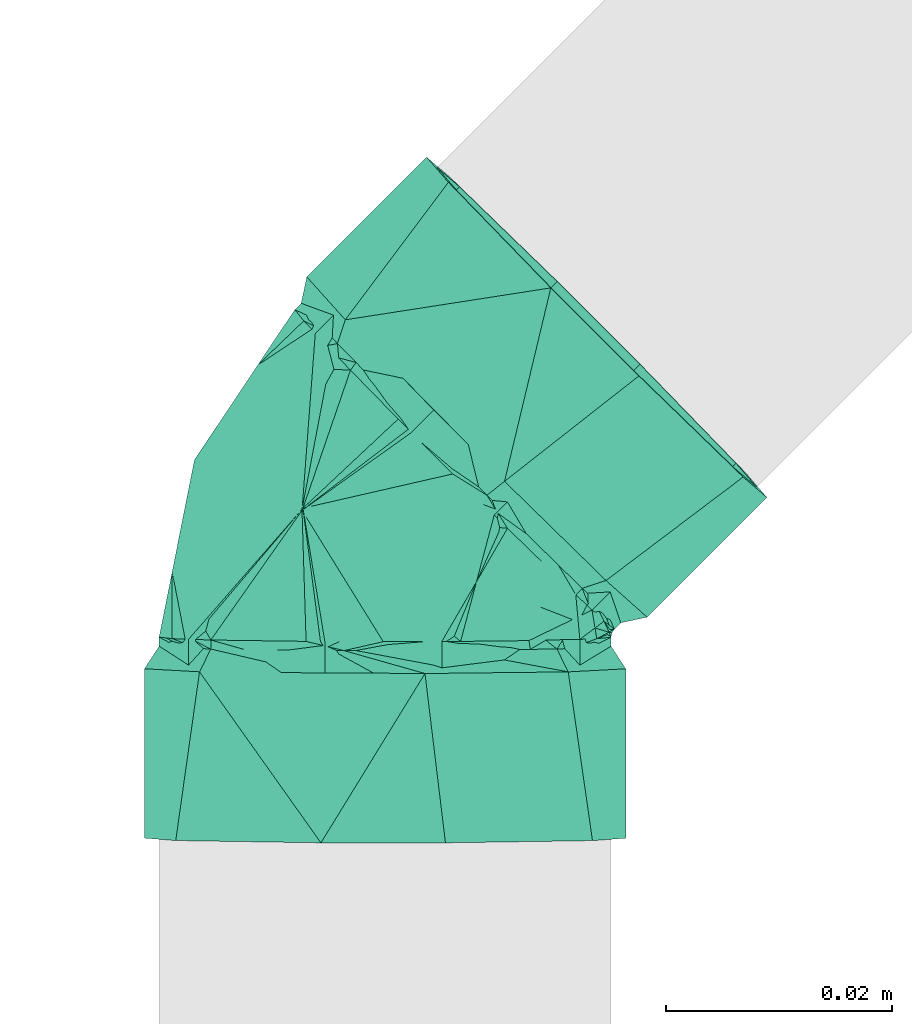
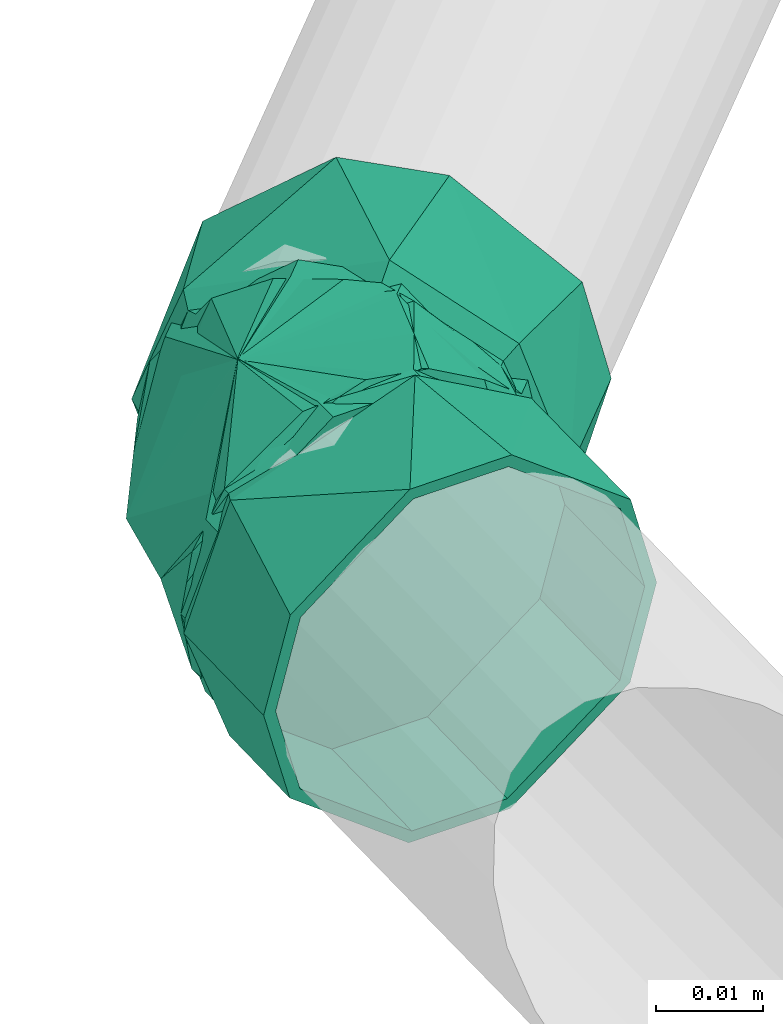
# One storey, part 383 of 589: 1 flow fitting.
"""IFC2X3 building model written with IfcOpenShell, lengths in millimetres."""

from ifc_helpers import new_model, entity, si_unit, converted_unit, derived_unit, direction, frame, origin, place, context, subcontext, project, spatial, faceted_brep, source, transform, mapped, material, type_object, type_shapes, element, save


model = new_model("IFC2X3")

# Units and contexts
model_context = context("Model", 3, precision=0.01, world=origin(), true_north=direction((6.123031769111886e-17, 1.0)))
body_context = subcontext(model_context, "Body", "Model", "MODEL_VIEW")
ifc_project = project(units=[si_unit("LENGTHUNIT", "METRE", prefix="MILLI"), si_unit("AREAUNIT", "SQUARE_METRE"), si_unit("VOLUMEUNIT", "CUBIC_METRE"), converted_unit("PLANEANGLEUNIT", "DEGREE", entity("IfcRatioMeasure", 0.017453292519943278), si_unit("PLANEANGLEUNIT", "RADIAN"), dimensions=[0, 0, 0, 0, 0, 0, 0]), si_unit("MASSUNIT", "GRAM", prefix="KILO"), derived_unit("MASSDENSITYUNIT", [(si_unit("MASSUNIT", "GRAM", prefix="KILO"), 1), (si_unit("LENGTHUNIT", "METRE"), -3)]), derived_unit("IONCONCENTRATIONUNIT", [(si_unit("MASSUNIT", "GRAM", prefix="KILO"), 1), (si_unit("LENGTHUNIT", "METRE"), -3)]), derived_unit("MOMENTOFINERTIAUNIT", [(si_unit("LENGTHUNIT", "METRE"), 4)]), si_unit("TIMEUNIT", "SECOND"), si_unit("FREQUENCYUNIT", "HERTZ"), si_unit("THERMODYNAMICTEMPERATUREUNIT", "DEGREE_CELSIUS"), derived_unit("THERMALTRANSMITTANCEUNIT", [(si_unit("MASSUNIT", "GRAM", prefix="KILO"), 1), (si_unit("THERMODYNAMICTEMPERATUREUNIT", "KELVIN"), -1), (si_unit("TIMEUNIT", "SECOND"), -3)]), derived_unit("THERMALCONDUCTANCEUNIT", [(si_unit("MASSUNIT", "GRAM", prefix="KILO"), 1), (si_unit("THERMODYNAMICTEMPERATUREUNIT", "KELVIN"), -1), (si_unit("TIMEUNIT", "SECOND"), -3), (si_unit("LENGTHUNIT", "METRE"), 1)]), derived_unit("VOLUMETRICFLOWRATEUNIT", [(si_unit("LENGTHUNIT", "METRE"), 3), (si_unit("TIMEUNIT", "SECOND"), -1)]), derived_unit("MASSFLOWRATEUNIT", [(si_unit("MASSUNIT", "GRAM", prefix="KILO"), 1), (si_unit("TIMEUNIT", "SECOND"), -1)]), derived_unit("ROTATIONALFREQUENCYUNIT", [(si_unit("TIMEUNIT", "SECOND"), -1)]), si_unit("ELECTRICCURRENTUNIT", "AMPERE"), si_unit("ELECTRICVOLTAGEUNIT", "VOLT"), si_unit("POWERUNIT", "WATT"), si_unit("FORCEUNIT", "NEWTON", prefix="KILO"), si_unit("ILLUMINANCEUNIT", "LUX"), si_unit("LUMINOUSFLUXUNIT", "LUMEN"), si_unit("LUMINOUSINTENSITYUNIT", "CANDELA"), derived_unit("USERDEFINED", [(si_unit("MASSUNIT", "GRAM", prefix="KILO"), -1), (si_unit("LENGTHUNIT", "METRE"), -2), (si_unit("TIMEUNIT", "SECOND"), 3), (si_unit("LUMINOUSFLUXUNIT", "LUMEN"), 1)]), derived_unit("USERDEFINED", [(si_unit("MASSUNIT", "GRAM", prefix="KILO"), 1), (si_unit("TIMEUNIT", "SECOND"), -3), (si_unit("LENGTHUNIT", "METRE"), 3), (si_unit("ELECTRICCURRENTUNIT", "AMPERE"), -2)]), derived_unit("SOUNDPOWERUNIT", [(si_unit("MASSUNIT", "GRAM", prefix="KILO"), 1), (si_unit("TIMEUNIT", "SECOND"), -3), (si_unit("LENGTHUNIT", "METRE"), 2)]), derived_unit("SOUNDPRESSUREUNIT", [(si_unit("MASSUNIT", "GRAM", prefix="KILO"), 1), (si_unit("LENGTHUNIT", "METRE"), -1), (si_unit("TIMEUNIT", "SECOND"), -2)]), derived_unit("LINEARVELOCITYUNIT", [(si_unit("LENGTHUNIT", "METRE"), 1), (si_unit("TIMEUNIT", "SECOND"), -1)]), si_unit("PRESSUREUNIT", "PASCAL"), derived_unit("USERDEFINED", [(si_unit("MASSUNIT", "GRAM", prefix="KILO"), 1), (si_unit("LENGTHUNIT", "METRE"), -2), (si_unit("TIMEUNIT", "SECOND"), -2)]), derived_unit("LINEARFORCEUNIT", [(si_unit("MASSUNIT", "GRAM", prefix="KILO"), 1), (si_unit("TIMEUNIT", "SECOND"), -2)]), derived_unit("PLANARFORCEUNIT", [(si_unit("MASSUNIT", "GRAM", prefix="KILO"), 1), (si_unit("LENGTHUNIT", "METRE"), -1), (si_unit("TIMEUNIT", "SECOND"), -2)]), derived_unit("SPECIFICHEATCAPACITYUNIT", [(si_unit("THERMODYNAMICTEMPERATUREUNIT", "KELVIN"), -1), (si_unit("LENGTHUNIT", "METRE"), 2), (si_unit("TIMEUNIT", "SECOND"), -2)]), derived_unit("HEATINGVALUEUNIT", [(si_unit("LENGTHUNIT", "METRE"), 2), (si_unit("TIMEUNIT", "SECOND"), -2)]), derived_unit("VAPORPERMEABILITYUNIT", [(si_unit("LENGTHUNIT", "METRE"), -1), (si_unit("TIMEUNIT", "SECOND"), 1)]), derived_unit("DYNAMICVISCOSITYUNIT", [(si_unit("MASSUNIT", "GRAM", prefix="KILO"), 1), (si_unit("TIMEUNIT", "SECOND"), -1), (si_unit("LENGTHUNIT", "METRE"), -1)]), derived_unit("THERMALEXPANSIONCOEFFICIENTUNIT", [(si_unit("THERMODYNAMICTEMPERATUREUNIT", "KELVIN"), -1)]), derived_unit("MODULUSOFELASTICITYUNIT", [(si_unit("MASSUNIT", "GRAM", prefix="KILO"), 1), (si_unit("LENGTHUNIT", "METRE"), -1), (si_unit("TIMEUNIT", "SECOND"), -2)]), derived_unit("ISOTHERMALMOISTURECAPACITYUNIT", [(si_unit("LENGTHUNIT", "METRE"), 3), (si_unit("MASSUNIT", "GRAM", prefix="KILO"), -1)]), derived_unit("MOISTUREDIFFUSIVITYUNIT", [(si_unit("TIMEUNIT", "SECOND"), -1), (si_unit("LENGTHUNIT", "METRE"), 2)])], contexts=[model_context])

# Site, building, storey
site_placement = place(None, origin())
site = spatial("IfcSite", under=ifc_project, at=site_placement, Name="Default", CompositionType="ELEMENT")
building_placement = place(site_placement, origin())
building = spatial("IfcBuilding", under=site, at=building_placement, CompositionType="ELEMENT")
storey_placement = place(building_placement, frame((0.0, 0.0, 100.0)))
storey = spatial("IfcBuildingStorey", under=building, at=storey_placement, Name="TÉRREO", CompositionType="ELEMENT", Elevation=100.0)

# Flow fitting
ifc_material = material(Name="PVC Série Normal")
pipe_fitting_type = type_object("IfcPipeFittingType", Name="PVC Esgoto_Joelho 45_90_Rodrigo MEP:a. Série Normal", PredefinedType="NOTDEFINED", material=ifc_material)
shared_shape = source(origin(), body_context, "Body", "Brep", [
    faceted_brep([(20.291797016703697, -7.993282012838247, 0.0), (18.397234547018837, -6.098470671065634, 10.0), (9.810603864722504, 2.489287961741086, 19.318516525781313), (2.4905765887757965, 9.810276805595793, 19.318516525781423), (-6.0960540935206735, 18.39803543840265, 10.0), (-7.990616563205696, 20.29284678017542, 0.0), (-6.0960540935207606, 18.398035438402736, -10.0), (2.49057658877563, 9.81027680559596, -19.31851652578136), (9.810603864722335, 2.4892879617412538, -19.318516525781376), (18.397234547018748, -6.098470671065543, -10.0), (-6.010587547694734, 22.272615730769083, 0.0), (-4.116025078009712, 20.377804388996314, 10.0), (4.470605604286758, 11.790045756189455, 19.318516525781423), (11.790632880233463, 4.46905691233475, 19.318516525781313), (20.3772635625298, -4.118701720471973, 10.0), (22.271826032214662, -6.013513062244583, 0.0), (20.37726356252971, -4.11870172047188, -10.0), (11.790632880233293, 4.469056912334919, -19.318516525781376), (4.4706056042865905, 11.790045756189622, -19.31851652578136), (-4.116025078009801, 20.3778043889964, -10.0)], [[[0, 1, 2, 3, 4, 5, 6, 7, 8, 9]], [[10, 11, 12, 13, 14, 15, 16, 17, 18, 19]], [[0, 15, 14, 1]], [[1, 14, 13, 2]], [[13, 12, 3, 2]], [[3, 12, 11, 4]], [[4, 11, 10, 5]], [[5, 10, 19, 6]], [[6, 19, 18, 7]], [[18, 17, 8, 7]], [[8, 17, 16, 9]], [[9, 16, 15, 0]]]),
    faceted_brep([(-11.497676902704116, -17.320508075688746, -10.0), (-11.497676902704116, -20.0, 0.0), (-11.497676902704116, -17.320508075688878, 10.0), (-11.497676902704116, -5.176380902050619, 19.318516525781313), (-11.497676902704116, 5.1763809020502, 19.318516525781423), (-11.497676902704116, 17.320508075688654, 10.0), (-11.497676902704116, 20.0, 0.0), (-11.497676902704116, 17.320508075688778, -10.0), (-11.497676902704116, 5.17638090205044, -19.31851652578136), (-11.497676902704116, -5.176380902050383, -19.318516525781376), (-8.697676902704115, 5.17638090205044, -19.31851652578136), (-8.697676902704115, 17.320508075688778, -10.0), (-8.697676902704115, 20.0, 0.0), (-8.697676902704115, 17.320508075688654, 10.0), (-8.697676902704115, 5.1763809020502, 19.318516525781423), (-8.697676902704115, -5.176380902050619, 19.318516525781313), (-8.697676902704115, -17.320508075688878, 10.0), (-8.697676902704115, -20.0, 0.0), (-8.697676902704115, -17.320508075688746, -10.0), (-8.697676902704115, -5.176380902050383, -19.318516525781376)], [[[0, 1, 2, 3, 4, 5, 6, 7, 8, 9]], [[10, 11, 12, 13, 14, 15, 16, 17, 18, 19]], [[1, 17, 16, 2]], [[2, 16, 15, 3]], [[15, 14, 4, 3]], [[4, 14, 13, 5]], [[5, 13, 12, 6]], [[6, 12, 11, 7]], [[7, 11, 10, 8]], [[10, 19, 9, 8]], [[9, 19, 18, 0]], [[0, 18, 17, 1]]]),
    faceted_brep([(-26.49767690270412, -5.512845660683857, -20.574220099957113), (-26.49767690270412, -5.176380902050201, -19.318516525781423), (-26.49767690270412, 5.176380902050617, -19.318516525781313), (-26.49767690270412, -18.44634110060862, -10.649999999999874), (-26.49767690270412, 5.512845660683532, -20.574220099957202), (-26.49767690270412, -17.320508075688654, -10.0), (-26.49767690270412, -20.0, 0.0), (-26.49767690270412, -21.3, 0.0), (-26.49767690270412, -17.32050807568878, 10.0), (-26.49767690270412, -18.446341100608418, 10.65000000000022), (-26.49767690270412, -5.176380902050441, 19.31851652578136), (-26.49767690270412, -5.512845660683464, 20.574220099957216), (-26.49767690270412, 5.176380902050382, 19.318516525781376), (-26.49767690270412, 5.512845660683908, 20.5742200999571), (-26.49767690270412, 17.320508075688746, 10.0), (-26.49767690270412, 18.446341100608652, 10.649999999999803), (-26.49767690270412, 21.3, 0.0), (-26.49767690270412, 20.0, 0.0), (-26.49767690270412, 18.44634110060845, -10.650000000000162), (-26.49767690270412, 17.320508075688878, -10.0), (-11.497676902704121, 17.320508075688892, -10.0), (-11.497676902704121, 20.0, 0.0), (-11.497676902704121, 5.17638090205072, -19.318516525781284), (-11.497676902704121, -5.176380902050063, -19.31851652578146), (-11.497676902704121, -17.320508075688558, -10.0), (-11.497676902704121, -20.0, 0.0), (-11.497676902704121, -17.320508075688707, 10.0), (-11.497676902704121, -5.176380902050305, 19.318516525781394), (-11.497676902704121, 5.176380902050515, 19.318516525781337), (-11.497676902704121, 17.320508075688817, 10.0), (-11.497676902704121, 21.3, 0.0), (-11.497676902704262, 16.315983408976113, 13.692285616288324), (-11.497676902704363, 3.696367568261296, 20.976817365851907), (-11.497676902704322, -16.31941754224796, 13.688192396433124), (-11.497676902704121, -21.3, 0.0), (-11.497676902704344, -6.311524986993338, 17.3325048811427), (-11.49767690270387, -16.319417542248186, -13.688192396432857), (-11.497676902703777, -3.7016293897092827, -20.975889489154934), (-11.497676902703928, 16.315983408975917, -13.692285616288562), (-11.497676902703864, 6.307177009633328, -17.334087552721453), (-9.497676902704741, -3.470767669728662, -19.69654212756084), (-9.49767690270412, 20.0, 0.0), (-9.497676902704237, 18.830849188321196, -3.2131907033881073), (-9.497676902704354, 17.66169837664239, -6.426381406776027), (-9.497676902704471, 16.4925475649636, -9.639572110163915), (-9.497676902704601, 15.323396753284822, -12.852762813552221), (-9.497676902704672, 5.9263145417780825, -16.27465247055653), (-9.497676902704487, -15.320172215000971, -12.856606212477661), (-9.49767690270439, -16.490129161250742, -9.642454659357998), (-9.497676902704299, -17.660086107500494, -6.428303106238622), (-9.49767690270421, -18.830043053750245, -3.214151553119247), (-9.497676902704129, -20.0, 0.0), (-9.497676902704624, 10.624855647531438, -14.563707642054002), (-9.497676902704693, 1.2277734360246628, -17.98559729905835), (-9.497676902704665, -6.433118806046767, -17.98655814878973), (-9.497676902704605, -9.395469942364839, -16.276574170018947), (-9.49767690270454, -12.357821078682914, -14.566590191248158), (-9.497676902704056, -18.830043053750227, 3.2141515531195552), (-9.497676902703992, -17.660086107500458, 6.428303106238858), (-9.497676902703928, -16.490129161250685, 9.64245465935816), (-9.497676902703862, -15.3201722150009, 12.856606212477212), (-9.497676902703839, -12.970687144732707, 13.711489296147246), (-9.497676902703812, -10.621202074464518, 14.566372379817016), (-9.497676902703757, -5.922231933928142, 16.27613854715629), (-9.497676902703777, 15.323396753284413, 12.852762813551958), (-9.497676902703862, 16.49254756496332, 9.63957211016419), (-9.49767690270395, 17.661698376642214, 6.426381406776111), (-9.497676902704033, 18.830849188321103, 3.213190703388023), (-9.497676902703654, 3.47570834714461, 19.695670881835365), (-9.49767690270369, 6.43763044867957, 17.984943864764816), (-9.497676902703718, 9.399552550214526, 16.274216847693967), (-9.497676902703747, 12.361474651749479, 14.563489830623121), (-9.497676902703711, -1.2232617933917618, 17.985904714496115), (-8.697676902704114, 17.057389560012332, 9.848048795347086), (-8.697676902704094, 6.840479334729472, 18.793824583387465), (-8.697676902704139, -9.848049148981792, 17.057385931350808), (-8.697676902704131, -3.420183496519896, 19.396932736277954), (-8.697676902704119, 0.0, 20.0), (-8.697676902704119, 19.396930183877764, 3.4201905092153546), (-8.697676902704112, 15.320918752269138, 12.855716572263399), (-8.697676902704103, 11.080699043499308, 15.82477057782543), (-8.697676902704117, 18.793860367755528, 6.840381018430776), (-8.697676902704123, -18.793848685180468, 6.840413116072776), (-8.697676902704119, 20.0, 0.0), (-8.697676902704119, -20.0, 0.0), (-8.697676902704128, -15.824789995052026, 11.080659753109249), (-8.697676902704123, -19.156924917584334, 4.781308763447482), (-8.697676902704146, -6.84036699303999, 18.793865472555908), (-8.69767690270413, -14.34026064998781, 13.200783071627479), (-8.697676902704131, -12.855731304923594, 15.320906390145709), (-8.697676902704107, 3.420239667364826, 19.396912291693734), (-8.697676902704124, -17.057361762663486, -9.848091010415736), (-8.697676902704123, -18.793848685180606, -6.840413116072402), (-8.697676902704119, 19.39693018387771, -3.4201905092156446), (-8.697676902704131, -3.420183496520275, -19.396932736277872), (-8.697676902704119, 0.0, -20.0), (-8.69767690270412, -19.396924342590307, -3.4202065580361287), (-8.697676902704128, -15.320874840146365, -12.85576890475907), (-8.697676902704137, -11.080620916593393, -15.824817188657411), (-8.697676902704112, 15.824828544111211, -11.080616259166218), (-8.697676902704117, 18.79386036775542, -6.84038101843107), (-8.697676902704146, -6.840366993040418, -18.79386547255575), (-8.697676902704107, 12.855796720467, -15.320851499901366), (-8.697676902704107, 3.420239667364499, -19.396912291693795), (-8.697676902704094, 6.840479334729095, -18.7938245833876), (-8.697676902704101, 9.848138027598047, -17.05733804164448), (18.39723454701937, -6.098470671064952, -10.0), (9.810603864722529, 2.489287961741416, -19.318516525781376), (2.490576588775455, 9.81027680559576, -19.31851652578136), (-6.0960540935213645, 18.39803543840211, -10.0), (-7.990616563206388, 20.292846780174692, 0.0), (-6.096054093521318, 18.39803543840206, 10.0), (2.4905765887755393, 9.810276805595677, 19.31851652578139), (9.810603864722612, 2.489287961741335, 19.318516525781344), (18.39723454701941, -6.098470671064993, 10.0), (20.29179701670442, -7.993282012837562, 0.0), (-2.9119619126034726, -18.849248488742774, 0.0), (15.386759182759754, -11.270374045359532, 0.0), (2.8666055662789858, -7.210896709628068, 17.605576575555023), (6.991099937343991, -16.87957604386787, 0.0), (-8.315023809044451, 20.076107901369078, 0.0), (2.8666055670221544, -7.2108967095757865, -17.605576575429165)], [[[0, 1, 2]], [[1, 0, 3]], [[2, 4, 0]], [[3, 5, 1]], [[3, 6, 5]], [[6, 3, 7]], [[8, 6, 7]], [[8, 7, 9]], [[9, 10, 8]], [[9, 11, 10]], [[10, 11, 12]], [[13, 12, 11]], [[13, 14, 12]], [[14, 13, 15]], [[16, 14, 15]], [[17, 14, 16]], [[18, 17, 16]], [[18, 19, 17]], [[19, 18, 4]], [[4, 2, 19]], [[20, 21, 17, 19]], [[22, 20, 19, 2]], [[2, 1, 23, 22]], [[24, 23, 1, 5]], [[25, 24, 5, 6]], [[26, 25, 6, 8]], [[27, 26, 8, 10]], [[10, 12, 28, 27]], [[29, 28, 12, 14]], [[21, 29, 14, 17]], [[16, 15, 30]], [[15, 31, 30]], [[31, 15, 13]], [[31, 13, 32]], [[33, 11, 9]], [[34, 9, 7]], [[11, 33, 35, 32]], [[33, 9, 34]], [[11, 32, 13]], [[7, 3, 34]], [[3, 36, 34]], [[36, 3, 0]], [[36, 0, 37]], [[38, 4, 18]], [[30, 18, 16]], [[4, 38, 39, 37]], [[38, 18, 30]], [[4, 37, 0]], [[28, 29, 21, 20, 22, 23, 24, 25, 26, 27]], [[39, 40, 37]], [[30, 41, 42, 43, 44, 45]], [[30, 45, 38]], [[38, 46, 39]], [[36, 47, 48, 49, 50, 51]], [[38, 45, 52, 46]], [[36, 37, 47]], [[34, 36, 51]], [[39, 46, 53, 40]], [[37, 40, 54, 55, 56, 47]], [[33, 51, 57, 58, 59, 60]], [[33, 34, 51]], [[60, 35, 33]], [[35, 60, 61, 62, 63]], [[63, 32, 35]], [[30, 64, 65, 66, 67, 41]], [[31, 68, 69, 70, 71, 64]], [[31, 64, 30]], [[32, 63, 72, 68]], [[68, 31, 32]], [[64, 73, 65]], [[74, 70, 69, 68]], [[62, 75, 63]], [[76, 77, 72]], [[78, 67, 66]], [[79, 71, 80]], [[65, 81, 66]], [[64, 79, 73]], [[82, 59, 58]], [[83, 41, 67]], [[84, 57, 51]], [[60, 59, 85]], [[83, 67, 78]], [[86, 82, 58]], [[81, 65, 73]], [[63, 87, 76]], [[63, 76, 72]], [[63, 75, 87]], [[82, 85, 59]], [[68, 72, 77]], [[66, 81, 78]], [[61, 88, 89]], [[89, 62, 61]], [[68, 77, 90, 74]], [[84, 86, 57]], [[86, 58, 57]], [[89, 75, 62]], [[61, 60, 88]], [[60, 85, 88]], [[74, 80, 70]], [[71, 79, 64]], [[71, 70, 80]], [[49, 91, 92]], [[93, 43, 42]], [[54, 40, 94]], [[40, 53, 95]], [[51, 96, 84]], [[97, 56, 98]], [[48, 97, 91]], [[91, 49, 48]], [[99, 44, 100]], [[101, 55, 54]], [[96, 51, 50]], [[83, 42, 41]], [[45, 99, 102]], [[49, 92, 50]], [[42, 83, 93]], [[48, 47, 97]], [[53, 103, 95]], [[104, 103, 46]], [[52, 105, 46]], [[44, 99, 45]], [[46, 103, 53]], [[50, 92, 96]], [[105, 52, 102]], [[44, 43, 100]], [[40, 95, 94]], [[100, 43, 93]], [[102, 52, 45]], [[105, 104, 46]], [[101, 98, 55]], [[54, 94, 101]], [[56, 97, 47]], [[56, 55, 98]], [[106, 107, 108, 109, 110, 111, 112, 113, 114, 115]], [[116, 89, 88, 85, 82]], [[117, 118, 119]], [[118, 89, 119]], [[118, 77, 76, 87]], [[116, 82, 86, 84]], [[118, 74, 90, 77]], [[111, 81, 73, 79]], [[112, 79, 80, 74]], [[118, 87, 75, 89]], [[89, 116, 119]], [[74, 118, 112]], [[118, 114, 113]], [[118, 117, 114]], [[120, 83, 78, 81]], [[81, 110, 120]], [[110, 81, 111]], [[117, 115, 114]], [[112, 111, 79]], [[112, 118, 113]], [[104, 108, 121]], [[116, 92, 91, 97]], [[109, 102, 99, 100]], [[106, 121, 107]], [[97, 121, 119]], [[108, 104, 105, 102]], [[116, 84, 96, 92]], [[97, 119, 116]], [[121, 97, 98, 101]], [[121, 95, 103, 104]], [[110, 100, 120]], [[109, 100, 110]], [[108, 102, 109]], [[121, 101, 94, 95]], [[108, 107, 121]], [[119, 121, 117]], [[106, 117, 121]], [[106, 115, 117]], [[120, 100, 93, 83]]]),
    faceted_brep([(-4.116025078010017, 20.37780438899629, -10.0), (-6.010587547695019, 22.272615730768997, 0.0), (-4.116025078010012, 20.37780438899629, 10.0), (4.470605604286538, 11.790045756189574, 19.318516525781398), (11.790632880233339, 4.469056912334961, 19.318516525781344), (20.37726356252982, -4.11870172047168, 10.0), (22.27182603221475, -6.013513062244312, 0.0), (20.377263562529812, -4.118701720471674, -10.0), (11.79063288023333, 4.469056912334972, -19.318516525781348), (4.470605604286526, 11.790045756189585, -19.318516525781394), (23.191004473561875, -6.932812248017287, 0.0), (20.85751959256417, -7.4276337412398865, 0.0), (20.03085942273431, -6.600864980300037, -3.213190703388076), (19.204199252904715, -5.774096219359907, -6.426381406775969), (18.377539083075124, -4.947327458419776, -9.639572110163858), (17.55087891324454, -4.120558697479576, -12.85276281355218), (3.6679902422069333, 12.592766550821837, -17.332504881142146), (10.744174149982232, 5.51565310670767, -20.976817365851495), (4.262270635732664, 9.169795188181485, -19.696542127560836), (19.667004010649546, -3.408348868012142, -13.69228561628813), (-4.115973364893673, 17.54913976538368, -12.856606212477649), (-3.408193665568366, 19.669879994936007, -13.688192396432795), (2.167709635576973, 11.264631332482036, -17.986558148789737), (0.07314863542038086, 13.359467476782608, -16.27657417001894), (-2.021412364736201, 15.45430362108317, -14.566590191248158), (10.906574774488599, 2.5246182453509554, -16.274652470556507), (-4.943203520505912, 18.37647858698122, -9.642454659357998), (-5.7704336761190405, 19.20381740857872, -6.428303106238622), (-6.597663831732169, 20.031156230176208, -3.2141515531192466), (-7.424893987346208, 20.858495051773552, 0.0), (-6.92976598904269, 23.191914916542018, 0.0), (14.22872684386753, -0.7979702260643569, -14.563707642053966), (7.58442270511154, 5.8472067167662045, -17.98559729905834), (-3.408193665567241, 19.669879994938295, 13.688192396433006), (-6.597663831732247, 20.031156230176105, 3.2141515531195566), (-5.770433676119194, 19.20381740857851, 6.428303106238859), (-4.943203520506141, 18.376478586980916, 9.64245465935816), (-4.115973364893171, 17.549139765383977, 12.856606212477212), (12.59017395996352, 3.6694108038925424, 17.334087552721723), (5.513343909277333, 10.747170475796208, 20.975889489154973), (9.173848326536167, 4.257572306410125, 19.695670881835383), (17.55087891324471, -4.120558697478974, 12.852762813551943), (19.66700401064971, -3.4083488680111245, 13.692285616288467), (11.268105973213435, 2.1630395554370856, 17.984943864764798), (13.362363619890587, 0.06850680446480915, 16.274216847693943), (15.456621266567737, -2.0260259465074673, 14.563489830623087), (2.5289374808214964, 10.903356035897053, 16.276138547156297), (18.377539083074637, -4.94732745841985, 9.639572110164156), (19.20419925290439, -5.774096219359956, 6.426381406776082), (20.030859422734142, -6.600864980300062, 3.213190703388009), (-2.4547456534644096, 15.887693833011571, 13.711489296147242), (-0.793517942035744, 14.22624790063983, 14.566372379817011), (5.851392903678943, 7.580464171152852, 17.985904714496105), (14.840003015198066, 22.63388298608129, -20.574220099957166), (15.077903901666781, 22.395950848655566, -19.318516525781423), (22.39793117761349, 15.074962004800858, -19.318516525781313), (5.69524133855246, 31.779845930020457, -10.649999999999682), (22.635832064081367, 14.837029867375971, -20.574220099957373), (6.491273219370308, 30.983709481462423, -10.0), (4.596710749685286, 32.8785208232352, 0.0), (3.677532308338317, 33.797820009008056, 0.0), (6.491273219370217, 30.983709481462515, 10.0), (5.6952413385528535, 31.77984593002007, 10.650000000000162), (15.077903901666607, 22.39595084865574, 19.31851652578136), (14.840003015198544, 22.633882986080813, 20.5742200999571), (22.397931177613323, 15.074962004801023, 19.318516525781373), (22.635832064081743, 14.837029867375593, 20.57422009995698), (30.984561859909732, 6.4872033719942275, 10.0), (31.78059374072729, 5.691066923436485, 10.649999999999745), (33.798302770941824, 3.6730928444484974, 0.0), (32.87912432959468, 4.592392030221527, 0.0), (31.780593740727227, 5.691066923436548, -10.650000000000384), (30.984561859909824, 6.487203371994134, -10.0), (18.211174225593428, -5.912385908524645, 9.848091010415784), (10.98714243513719, 1.3125948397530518, 18.793865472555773), (-0.812637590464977, 13.11392489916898, 17.05733804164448), (3.7322744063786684, 8.568415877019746, 19.396912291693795), (6.15059022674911, 6.149782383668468, 20.0), (19.865386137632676, -7.5668151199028, 3.420206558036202), (16.983373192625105, -4.684423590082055, 12.8557689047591), (13.98525781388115, -1.6859143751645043, 15.824817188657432), (19.438975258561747, -7.1403482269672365, 6.84041311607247), (-7.13780306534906, 19.43992125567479, 6.840381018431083), (20.2917970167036, -7.993282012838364, 0.0), (-7.9906165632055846, 20.29284678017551, 0.0), (-5.03851841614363, 17.34036084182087, 11.080616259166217), (-7.3945144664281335, 19.696666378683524, 4.781309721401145), (1.3139585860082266, 10.987049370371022, 18.79382458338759), (-3.98887609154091, 16.29058063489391, 13.20073387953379), (-2.939233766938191, 15.240800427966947, 15.320851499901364), (8.568866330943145, 3.7311886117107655, 19.39693273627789), (-5.91001342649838, 18.21197033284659, -9.848048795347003), (-7.137803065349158, 19.439921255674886, -6.840381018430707), (19.865386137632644, -7.566815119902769, -3.420206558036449), (3.7322744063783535, 8.568415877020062, -19.396912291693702), (6.150590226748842, 6.1497823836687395, -20.0), (-7.56420981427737, 19.866384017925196, -3.4201905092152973), (-4.682223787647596, 16.984019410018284, -12.85571657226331), (-1.6841326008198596, 13.985534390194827, -15.824770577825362), (17.33967161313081, -5.040768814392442, -11.080659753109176), (19.43897525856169, -7.1403482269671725, -6.840413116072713), (1.3139585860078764, 10.987049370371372, -18.793824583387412), (15.240367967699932, -2.941189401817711, -15.32090639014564), (8.568866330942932, 3.731188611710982, -19.396932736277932), (10.987142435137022, 1.312594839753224, -18.79386547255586), (13.113755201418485, -0.814297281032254, -17.05738593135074), (-8.69767690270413, 5.176380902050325, 19.31851652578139), (-8.697676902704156, 17.320508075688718, 10.0), (-8.697676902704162, 20.0, 0.0), (-8.697676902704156, 17.320508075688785, -10.0), (-8.69767690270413, 5.176380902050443, -19.31851652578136), (-8.697676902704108, -5.176380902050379, -19.318516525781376), (-8.697676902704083, -17.320508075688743, -10.0), (-8.697676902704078, -20.0, 0.0), (-8.697676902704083, -17.32050807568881, 10.0), (-8.697676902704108, -5.176380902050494, 19.318516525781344), (6.991099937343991, -16.87957604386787, 0.0), (3.071408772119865, -7.126073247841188, 17.60557611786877), (-2.9119619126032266, -18.849248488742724, 0.0), (-8.315023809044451, 20.07610790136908, 0.0), (15.386759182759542, -11.270374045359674, 0.0), (3.0714087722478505, -7.126073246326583, -17.60557611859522)], [[[0, 1, 2, 3, 4, 5, 6, 7, 8, 9]], [[10, 11, 12, 13, 14, 15]], [[16, 17, 18]], [[19, 10, 15]], [[16, 20, 21]], [[16, 18, 22, 23, 24, 20]], [[19, 25, 17]], [[21, 20, 26, 27, 28, 29]], [[21, 29, 30]], [[19, 15, 31, 25]], [[17, 25, 32, 18]], [[33, 29, 34, 35, 36, 37]], [[38, 39, 40]], [[33, 30, 29]], [[38, 41, 42]], [[38, 40, 43, 44, 45, 41]], [[33, 46, 39]], [[10, 41, 47, 48, 49, 11]], [[42, 41, 10]], [[33, 37, 50, 51, 46]], [[39, 46, 52, 40]], [[53, 54, 55]], [[54, 53, 56]], [[55, 57, 53]], [[56, 58, 54]], [[56, 59, 58]], [[59, 56, 60]], [[61, 59, 60]], [[61, 60, 62]], [[62, 63, 61]], [[62, 64, 63]], [[63, 64, 65]], [[66, 65, 64]], [[66, 67, 65]], [[67, 66, 68]], [[69, 67, 68]], [[70, 67, 69]], [[71, 70, 69]], [[71, 72, 70]], [[72, 71, 57]], [[57, 55, 72]], [[69, 68, 10]], [[68, 42, 10]], [[42, 68, 66]], [[66, 39, 38, 42]], [[33, 64, 62]], [[30, 62, 60]], [[64, 33, 39]], [[33, 62, 30]], [[64, 39, 66]], [[60, 56, 30]], [[56, 21, 30]], [[21, 56, 53]], [[53, 17, 16, 21]], [[19, 57, 71]], [[10, 71, 69]], [[57, 19, 17]], [[19, 71, 10]], [[57, 17, 53]], [[7, 6, 70, 72]], [[8, 7, 72, 55]], [[55, 54, 9, 8]], [[0, 9, 54, 58]], [[1, 0, 58, 59]], [[2, 1, 59, 61]], [[3, 2, 61, 63]], [[63, 65, 4, 3]], [[5, 4, 65, 67]], [[6, 5, 67, 70]], [[41, 73, 47]], [[74, 44, 43, 40]], [[51, 75, 46]], [[76, 77, 52]], [[78, 49, 48]], [[79, 45, 80]], [[47, 81, 48]], [[41, 79, 73]], [[82, 36, 35]], [[83, 11, 49]], [[84, 34, 29]], [[37, 36, 85]], [[83, 49, 78]], [[86, 82, 35]], [[81, 47, 73]], [[46, 87, 76]], [[46, 76, 52]], [[46, 75, 87]], [[82, 85, 36]], [[40, 52, 77]], [[48, 81, 78]], [[50, 88, 89]], [[89, 51, 50]], [[40, 77, 90, 74]], [[84, 86, 34]], [[86, 35, 34]], [[89, 75, 51]], [[50, 37, 88]], [[37, 85, 88]], [[74, 80, 44]], [[45, 79, 41]], [[45, 44, 80]], [[27, 91, 92]], [[93, 13, 12]], [[22, 18, 94]], [[18, 32, 95]], [[29, 96, 84]], [[97, 24, 98]], [[26, 97, 91]], [[91, 27, 26]], [[99, 14, 100]], [[101, 23, 22]], [[96, 29, 28]], [[83, 12, 11]], [[15, 99, 102]], [[27, 92, 28]], [[12, 83, 93]], [[26, 20, 97]], [[32, 103, 95]], [[104, 103, 25]], [[31, 105, 25]], [[14, 99, 15]], [[25, 103, 32]], [[28, 92, 96]], [[105, 31, 102]], [[14, 13, 100]], [[18, 95, 94]], [[100, 13, 93]], [[102, 31, 15]], [[105, 104, 25]], [[101, 98, 23]], [[22, 94, 101]], [[24, 97, 20]], [[24, 23, 98]], [[106, 107, 108, 109, 110, 111, 112, 113, 114, 115]], [[116, 117, 118]], [[115, 117, 106]], [[118, 117, 114]], [[107, 106, 89]], [[82, 119, 108]], [[108, 107, 82]], [[114, 113, 118]], [[117, 74, 90, 77]], [[79, 117, 116]], [[117, 79, 80, 74]], [[79, 116, 120]], [[117, 77, 76, 87]], [[119, 82, 86, 84]], [[120, 81, 73, 79]], [[107, 89, 88, 85, 82]], [[106, 87, 75, 89]], [[114, 117, 115]], [[117, 87, 106]], [[120, 83, 78, 81]], [[121, 110, 101]], [[109, 108, 92]], [[118, 113, 112]], [[109, 97, 110]], [[121, 118, 112]], [[121, 112, 111]], [[111, 110, 121]], [[92, 108, 119]], [[109, 92, 91, 97]], [[110, 97, 98, 101]], [[121, 104, 105, 102]], [[118, 121, 116]], [[121, 101, 94, 95]], [[102, 116, 121]], [[120, 100, 93, 83]], [[116, 102, 120]], [[120, 102, 99, 100]], [[121, 95, 103, 104]], [[119, 84, 96, 92]]]),
])
type_shapes(pipe_fitting_type, [shared_shape])
flow_fitting_placement = place(storey_placement, frame((127.2911429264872, -6407.1649611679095, -224.29008069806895), z_axis=(-0.00828350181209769, -0.019995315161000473, 0.9997657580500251), x_axis=(-0.7070360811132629, -0.70689471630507, -0.01999600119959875)))
element("IfcFlowFitting", 1, at=flow_fitting_placement, inside=storey, type_object=pipe_fitting_type, material=ifc_material, Name="PVC Esgoto_Joelho 45_90_Rodrigo MEP:a. Série Normal", ObjectType="PVC Esgoto_Joelho 45_90_Rodrigo MEP:a. Série Normal", context=body_context, shape_type="MappedRepresentation", body=[
    mapped(shared_shape, transform((0.0, 0.0, 0.0), scale=1.0)),
])

save(model, "model.ifc")
